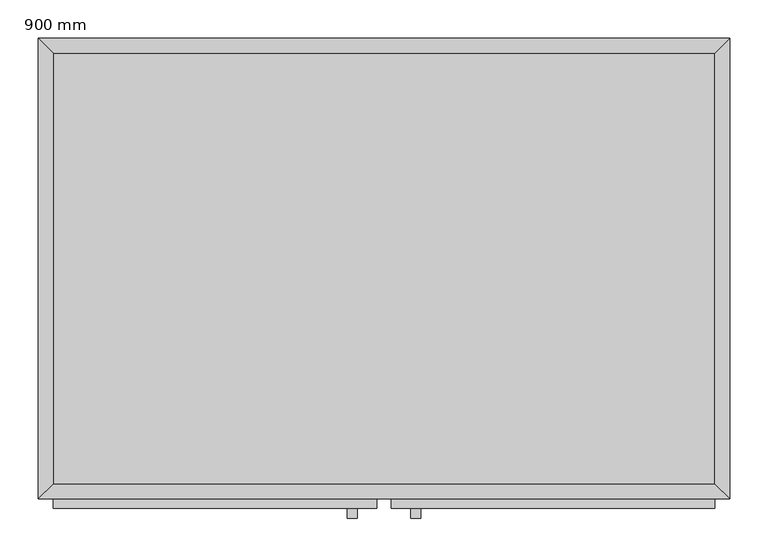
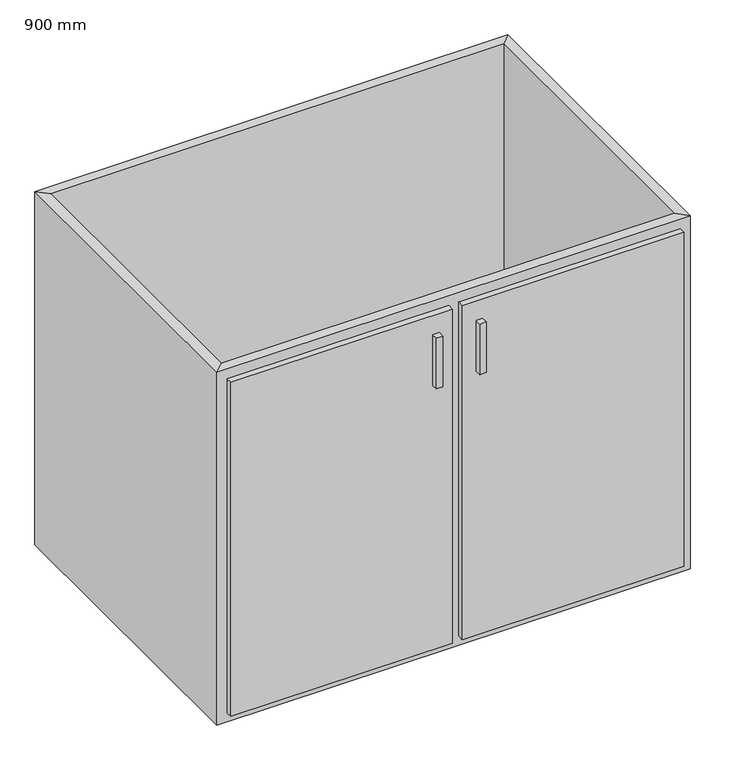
"""IFC4 building model written with IfcOpenShell, lengths in millimetres: furniture geometry, Armario-Puerta doble Unidad de fregadero : 900 mm."""

from ifc_helpers import new_model, si_unit, frame, origin, place, context, project, spatial, polyline, outline, extrude, faceted_brep, source, transform, mapped, element, save


def furniture_900_mm_f7b05b38(model_context):
    return source(origin(), model_context, "Body", "SolidModel", [
        extrude(outline(polyline([(449.6877049, -19.05), (449.6877049, -580.95), (-412.2122951, -580.95), (-412.2122951, -19.05), (449.6877049, -19.05)])), frame((0.0, 0.0, 150.0), z_axis=(0.0, 0.0, 1.0), x_axis=(1.0, 0.0, 0.0)), (0.0, 0.0, 1.0), 19.05),
        faceted_brep([(449.6877049, -580.95, 860.0), (449.6877049, -580.95, 150.0), (-412.2122951, -580.95, 150.0), (-412.2122951, -580.95, 860.0), (468.7377049, -600.0, 860.0), (-431.2622951, -600.0, 860.0), (468.7377049, -600.0, 150.0), (-431.2622951, -600.0, 150.0), (-412.2122951, -19.05, 150.0), (-412.2122951, -19.05, 860.0), (-431.2622951, 0.0, 860.0), (-431.2622951, 0.0, 150.0), (449.6877049, -19.05, 150.0), (449.6877049, -19.05, 860.0), (468.7377049, 0.0, 860.0), (468.7377049, 0.0, 150.0)], [[[0, 1, 2, 3]], [[4, 0, 3, 5]], [[6, 4, 5, 7]], [[1, 6, 7, 2]], [[3, 2, 8, 9]], [[5, 3, 9, 10]], [[7, 5, 10, 11]], [[2, 7, 11, 8]], [[9, 8, 12, 13]], [[10, 9, 13, 14]], [[11, 10, 14, 15]], [[8, 11, 15, 12]], [[13, 12, 1, 0]], [[14, 13, 0, 4]], [[15, 14, 4, 6]], [[12, 15, 6, 1]]]),
        extrude(outline(polyline([(9.2127049, -612.7), (-412.2122951, -612.7), (-412.2122951, -600.0), (9.2127049, -600.0), (9.2127049, -612.7)])), frame((0.0, 0.0, 169.05), z_axis=(0.0, 0.0, 1.0), x_axis=(1.0, 0.0, 0.0)), (0.0, 0.0, 1.0), 671.9),
        extrude(outline(polyline([(449.6877049, -612.7), (28.2627049, -612.7), (28.2627049, -600.0), (449.6877049, -600.0), (449.6877049, -612.7)])), frame((0.0, 0.0, 169.05), z_axis=(0.0, 0.0, 1.0), x_axis=(1.0, 0.0, 0.0)), (0.0, 0.0, 1.0), 671.9),
        extrude(outline(polyline([(-16.1872951, -625.4), (-28.8872951, -625.4), (-28.8872951, -612.7), (-16.1872951, -612.7), (-16.1872951, -625.4)])), frame((0.0, 0.0, 701.25), z_axis=(0.0, 0.0, 1.0), x_axis=(1.0, 0.0, 0.0)), (0.0, 0.0, 1.0), 101.6),
        extrude(outline(polyline([(66.3627049, -625.4), (53.6627049, -625.4), (53.6627049, -612.7), (66.3627049, -612.7), (66.3627049, -625.4)])), frame((0.0, 0.0, 701.25), z_axis=(0.0, 0.0, 1.0), x_axis=(1.0, 0.0, 0.0)), (0.0, 0.0, 1.0), 101.6),
    ])


if __name__ == "__main__":
    model = new_model("IFC4")
    model_context = context("Model", 3, world=origin())
    ifc_project = project(units=[si_unit("LENGTHUNIT", "METRE", prefix="MILLI")], contexts=[model_context])
    site = spatial("IfcSite", under=ifc_project)
    building = spatial("IfcBuilding", under=site)
    placement = place(None, origin())
    furniture_900_mm_shape = furniture_900_mm_f7b05b38(model_context)
    element("IfcFurniture", 1, ObjectType="Armario-Puerta doble Unidad de fregadero : 900 mm", at=placement, inside=building, context=model_context, shape_type="MappedRepresentation", body=[
        mapped(furniture_900_mm_shape, transform((0.0, 0.0, 0.0), x_axis=(1.0, 0.0, 0.0), y_axis=(0.0, 1.0, 0.0), z_axis=(0.0, 0.0, 1.0))),
    ])
    save(model, "model.ifc")
